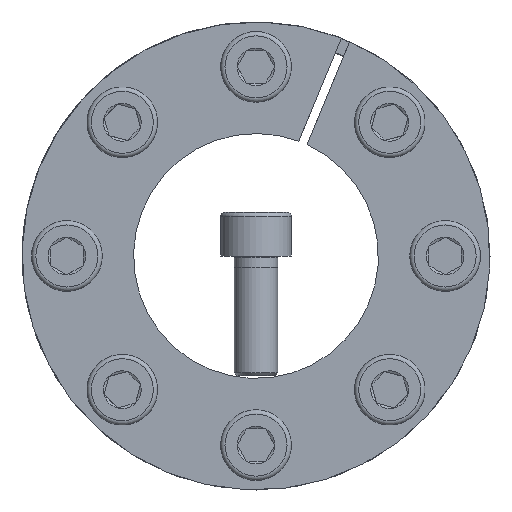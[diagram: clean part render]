
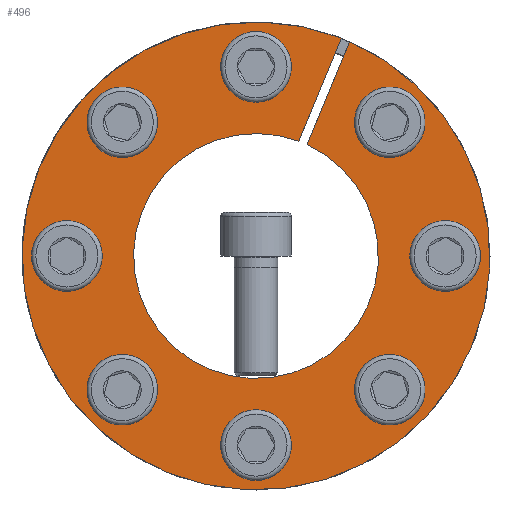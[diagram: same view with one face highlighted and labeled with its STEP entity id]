
A CAD part, front view. The second image highlights one B-rep face of the part: STEP entity #496.
In plain terms, the highlighted planar face has unit normal (0, -1, 0).
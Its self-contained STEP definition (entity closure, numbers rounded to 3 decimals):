
#496 = ADVANCED_FACE( '', ( #896, #897, #898, #899, #900, #901, #902, #903, #904 ), #905, .F. );
#896 = FACE_BOUND( '', #1468, .T. );
#897 = FACE_BOUND( '', #1469, .T. );
#898 = FACE_BOUND( '', #1470, .T. );
#899 = FACE_BOUND( '', #1471, .T. );
#900 = FACE_BOUND( '', #1472, .T. );
#901 = FACE_BOUND( '', #1473, .T. );
#902 = FACE_BOUND( '', #1474, .T. );
#903 = FACE_BOUND( '', #1475, .T. );
#904 = FACE_OUTER_BOUND( '', #1476, .T. );
#905 = PLANE( '', #1477 );
#1468 = EDGE_LOOP( '', ( #2149 ) );
#1469 = EDGE_LOOP( '', ( #2150 ) );
#1470 = EDGE_LOOP( '', ( #2151 ) );
#1471 = EDGE_LOOP( '', ( #2152 ) );
#1472 = EDGE_LOOP( '', ( #2153 ) );
#1473 = EDGE_LOOP( '', ( #2154 ) );
#1474 = EDGE_LOOP( '', ( #2155 ) );
#1475 = EDGE_LOOP( '', ( #2156 ) );
#1476 = EDGE_LOOP( '', ( #2157, #2158, #2159, #2160 ) );
#1477 = AXIS2_PLACEMENT_3D( '', #2161, #2162, #2163 );
#2149 = ORIENTED_EDGE( '', *, *, #3435, .T. );
#2150 = ORIENTED_EDGE( '', *, *, #3436, .T. );
#2151 = ORIENTED_EDGE( '', *, *, #3437, .T. );
#2152 = ORIENTED_EDGE( '', *, *, #3438, .T. );
#2153 = ORIENTED_EDGE( '', *, *, #3439, .T. );
#2154 = ORIENTED_EDGE( '', *, *, #3440, .T. );
#2155 = ORIENTED_EDGE( '', *, *, #3441, .T. );
#2156 = ORIENTED_EDGE( '', *, *, #3424, .T. );
#2157 = ORIENTED_EDGE( '', *, *, #3419, .T. );
#2158 = ORIENTED_EDGE( '', *, *, #3425, .T. );
#2159 = ORIENTED_EDGE( '', *, *, #3396, .T. );
#2160 = ORIENTED_EDGE( '', *, *, #3387, .F. );
#2161 = CARTESIAN_POINT( '', ( 0., 0., 43. ) );
#2162 = DIRECTION( '', ( 0., 1., 0. ) );
#2163 = DIRECTION( '', ( 0., 0., 1. ) );
#3387 = EDGE_CURVE( '', #3758, #3754, #3760, .T. );
#3396 = EDGE_CURVE( '', #3777, #3754, #3778, .T. );
#3419 = EDGE_CURVE( '', #3758, #3813, #3815, .T. );
#3424 = EDGE_CURVE( '', #3821, #3821, #3822, .T. );
#3425 = EDGE_CURVE( '', #3813, #3777, #3823, .T. );
#3435 = EDGE_CURVE( '', #3841, #3841, #3842, .T. );
#3436 = EDGE_CURVE( '', #3843, #3843, #3844, .T. );
#3437 = EDGE_CURVE( '', #3845, #3845, #3846, .T. );
#3438 = EDGE_CURVE( '', #3847, #3847, #3848, .T. );
#3439 = EDGE_CURVE( '', #3849, #3849, #3850, .T. );
#3440 = EDGE_CURVE( '', #3851, #3851, #3852, .T. );
#3441 = EDGE_CURVE( '', #3853, #3853, #3854, .T. );
#3754 = VERTEX_POINT( '', #4267 );
#3758 = VERTEX_POINT( '', #4272 );
#3760 = CIRCLE( '', #4275, 22.5 );
#3777 = VERTEX_POINT( '', #4300 );
#3778 = LINE( '', #4301, #4302 );
#3813 = VERTEX_POINT( '', #4366 );
#3815 = LINE( '', #4369, #4370 );
#3821 = VERTEX_POINT( '', #4376 );
#3822 = CIRCLE( '', #4377, 4. );
#3823 = CIRCLE( '', #4378, 43. );
#3841 = VERTEX_POINT( '', #4396 );
#3842 = CIRCLE( '', #4397, 4. );
#3843 = VERTEX_POINT( '', #4398 );
#3844 = CIRCLE( '', #4399, 4. );
#3845 = VERTEX_POINT( '', #4400 );
#3846 = CIRCLE( '', #4401, 4. );
#3847 = VERTEX_POINT( '', #4402 );
#3848 = CIRCLE( '', #4403, 4. );
#3849 = VERTEX_POINT( '', #4404 );
#3850 = CIRCLE( '', #4405, 4. );
#3851 = VERTEX_POINT( '', #4406 );
#3852 = CIRCLE( '', #4407, 4. );
#3853 = VERTEX_POINT( '', #4408 );
#3854 = CIRCLE( '', #4409, 4. );
#4267 = CARTESIAN_POINT( '', ( 9.383, 0., 20.45 ) );
#4272 = CARTESIAN_POINT( '', ( 7.826, 0., 21.095 ) );
#4275 = AXIS2_PLACEMENT_3D( '', #5232, #5233, #5234 );
#4300 = CARTESIAN_POINT( '', ( 17.231, 0., 39.397 ) );
#4301 = CARTESIAN_POINT( '', ( 17.234, 0., 39.404 ) );
#4302 = VECTOR( '', #5249, 1000. );
#4366 = CARTESIAN_POINT( '', ( 15.674, 0., 40.042 ) );
#4369 = CARTESIAN_POINT( '', ( 7.826, 0., 21.095 ) );
#4370 = VECTOR( '', #5274, 1000. );
#4376 = CARTESIAN_POINT( '', ( -21.744, 0., 27.4 ) );
#4377 = AXIS2_PLACEMENT_3D( '', #5287, #5288, #5289 );
#4378 = AXIS2_PLACEMENT_3D( '', #5290, #5291, #5292 );
#4396 = CARTESIAN_POINT( '', ( 4., 0., 34.75 ) );
#4397 = AXIS2_PLACEMENT_3D( '', #5320, #5321, #5322 );
#4398 = CARTESIAN_POINT( '', ( 27.4, 0., 21.744 ) );
#4399 = AXIS2_PLACEMENT_3D( '', #5323, #5324, #5325 );
#4400 = CARTESIAN_POINT( '', ( 34.75, 0., -4. ) );
#4401 = AXIS2_PLACEMENT_3D( '', #5326, #5327, #5328 );
#4402 = CARTESIAN_POINT( '', ( 21.744, 0., -27.4 ) );
#4403 = AXIS2_PLACEMENT_3D( '', #5329, #5330, #5331 );
#4404 = CARTESIAN_POINT( '', ( -4., 0., -34.75 ) );
#4405 = AXIS2_PLACEMENT_3D( '', #5332, #5333, #5334 );
#4406 = CARTESIAN_POINT( '', ( -27.4, 0., -21.744 ) );
#4407 = AXIS2_PLACEMENT_3D( '', #5335, #5336, #5337 );
#4408 = CARTESIAN_POINT( '', ( -34.75, 0., 4. ) );
#4409 = AXIS2_PLACEMENT_3D( '', #5338, #5339, #5340 );
#5232 = CARTESIAN_POINT( '', ( 0., 0., 0. ) );
#5233 = DIRECTION( '', ( 0., -1., 0. ) );
#5234 = DIRECTION( '', ( 0., 0., -1. ) );
#5249 = DIRECTION( '', ( -0.383, 0., -0.924 ) );
#5274 = DIRECTION( '', ( 0.383, 0., 0.924 ) );
#5287 = CARTESIAN_POINT( '', ( -24.572, 0., 24.572 ) );
#5288 = DIRECTION( '', ( 0., 1., 0. ) );
#5289 = DIRECTION( '', ( 0.707, 0., 0.707 ) );
#5290 = CARTESIAN_POINT( '', ( 0., 0., 0. ) );
#5291 = DIRECTION( '', ( 0., -1., 0. ) );
#5292 = DIRECTION( '', ( 0., 0., -1. ) );
#5320 = CARTESIAN_POINT( '', ( 0., 0., 34.75 ) );
#5321 = DIRECTION( '', ( 0., 1., 0. ) );
#5322 = DIRECTION( '', ( 1., 0., 0. ) );
#5323 = CARTESIAN_POINT( '', ( 24.572, 0., 24.572 ) );
#5324 = DIRECTION( '', ( 0., 1., 0. ) );
#5325 = DIRECTION( '', ( 0.707, 0., -0.707 ) );
#5326 = CARTESIAN_POINT( '', ( 34.75, 0., 0. ) );
#5327 = DIRECTION( '', ( 0., 1., 0. ) );
#5328 = DIRECTION( '', ( 0., 0., -1. ) );
#5329 = CARTESIAN_POINT( '', ( 24.572, 0., -24.572 ) );
#5330 = DIRECTION( '', ( 0., 1., 0. ) );
#5331 = DIRECTION( '', ( -0.707, 0., -0.707 ) );
#5332 = CARTESIAN_POINT( '', ( 0., 0., -34.75 ) );
#5333 = DIRECTION( '', ( 0., 1., 0. ) );
#5334 = DIRECTION( '', ( -1., 0., 0. ) );
#5335 = CARTESIAN_POINT( '', ( -24.572, 0., -24.572 ) );
#5336 = DIRECTION( '', ( 0., 1., 0. ) );
#5337 = DIRECTION( '', ( -0.707, 0., 0.707 ) );
#5338 = CARTESIAN_POINT( '', ( -34.75, 0., 0. ) );
#5339 = DIRECTION( '', ( 0., 1., 0. ) );
#5340 = DIRECTION( '', ( 0., 0., 1. ) );
